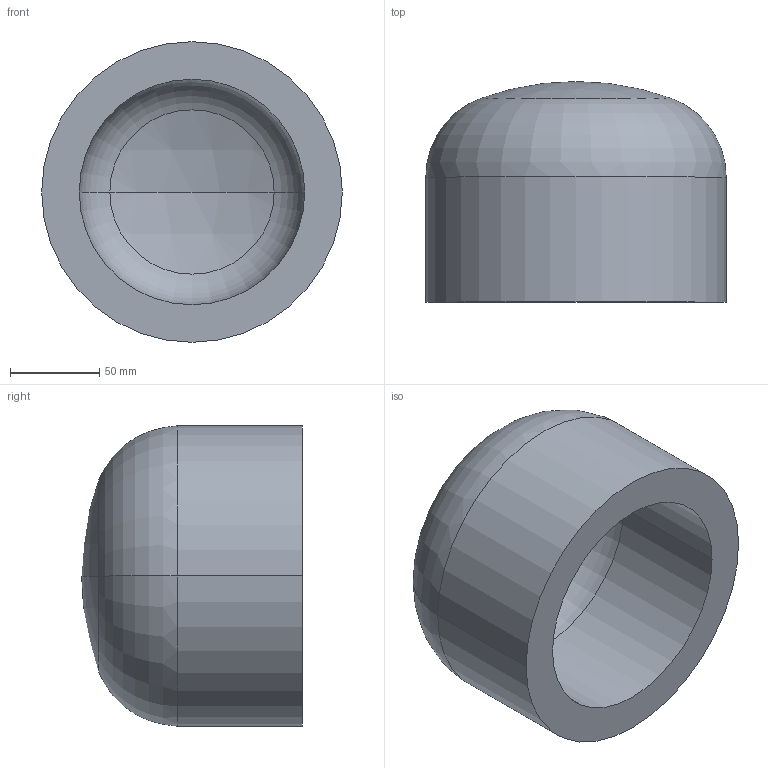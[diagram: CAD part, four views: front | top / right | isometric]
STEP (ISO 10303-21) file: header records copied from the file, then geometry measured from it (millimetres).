
FILE_DESCRIPTION (( 'STEP AP203' ), '1' );
FILE_NAME ('DIN 28013 Korbbogenform_-_Boden DIN 28013 - 168,3 x 70 - I - s=21.step', '2016-07-01T07:42:05', ( '' ), ( '' ), 'SwSTEP 2.0', 'SolidWorks 2013', '' );
FILE_SCHEMA (( 'CONFIG_CONTROL_DESIGN' ));
Length unit declared in the file: millimetre
Products named in the file (1): DIN 28013 Korbbogenform_-_Boden DIN 28013 - 168,3 x 70 - I - s=21
Bounding box: 168.3 x 123.53 x 168.3 mm (x, y, z)
Volume: 1236425.3 mm3; surface area: 128396.3 mm2
Topology: 1 solids, 1 shells, 13 faces, 24 edges, 14 vertices
Faces by surface type: torus 4, cylinder 4, sphere 4, plane 1
Entity records: 407 total; most frequent: DIRECTION 72, CARTESIAN_POINT 52, ORIENTED_EDGE 48, AXIS2_PLACEMENT_3D 34, EDGE_CURVE 24, CIRCLE 20, VERTEX_POINT 14, EDGE_LOOP 14
